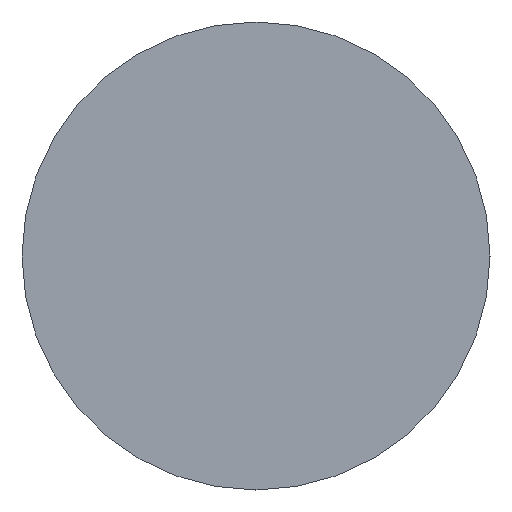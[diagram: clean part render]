
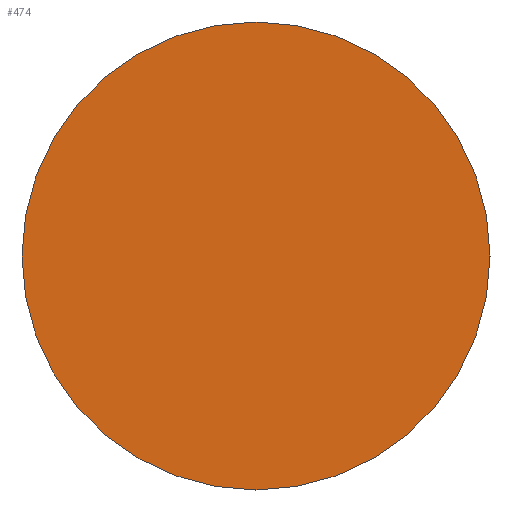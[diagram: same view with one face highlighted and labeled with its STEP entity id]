
A CAD part, left-side view. The second image highlights one B-rep face of the part: STEP entity #474.
In plain terms, the highlighted planar face has unit normal (-1, 0, 0).
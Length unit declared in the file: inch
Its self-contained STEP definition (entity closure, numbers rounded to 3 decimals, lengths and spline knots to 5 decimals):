
#16 = EDGE_CURVE ( 'NONE', #29, #447, #41, .T. ) ;
#21 = EDGE_LOOP ( 'NONE', ( #444, #509 ) ) ;
#29 = VERTEX_POINT ( 'NONE', #135 ) ;
#36 = CARTESIAN_POINT ( 'NONE',  ( -4., 0., 0. ) ) ;
#41 = CIRCLE ( 'NONE', #349, 0.125 ) ;
#108 = AXIS2_PLACEMENT_3D ( 'NONE', #36, #472, #559 ) ;
#135 = CARTESIAN_POINT ( 'NONE',  ( -4., 0., -0.125 ) ) ;
#203 = AXIS2_PLACEMENT_3D ( 'NONE', #586, #337, #493 ) ;
#252 = EDGE_CURVE ( 'NONE', #447, #29, #264, .T. ) ;
#264 = CIRCLE ( 'NONE', #108, 0.125 ) ;
#337 = DIRECTION ( 'NONE',  ( 1., 0., 0. ) ) ;
#349 = AXIS2_PLACEMENT_3D ( 'NONE', #409, #360, #560 ) ;
#360 = DIRECTION ( 'NONE',  ( -1., 0., 0. ) ) ;
#384 = CARTESIAN_POINT ( 'NONE',  ( -4., 0., 0.125 ) ) ;
#388 = FACE_OUTER_BOUND ( 'NONE', #21, .T. ) ;
#409 = CARTESIAN_POINT ( 'NONE',  ( -4., 0., 0. ) ) ;
#444 = ORIENTED_EDGE ( 'NONE', *, *, #252, .T. ) ;
#447 = VERTEX_POINT ( 'NONE', #384 ) ;
#472 = DIRECTION ( 'NONE',  ( -1., 0., 0. ) ) ;
#474 = ADVANCED_FACE ( 'NONE', ( #388 ), #487, .F. ) ;
#487 = PLANE ( 'NONE',  #203 ) ;
#493 = DIRECTION ( 'NONE',  ( 0., 0., -1. ) ) ;
#509 = ORIENTED_EDGE ( 'NONE', *, *, #16, .T. ) ;
#559 = DIRECTION ( 'NONE',  ( 0., 0., 1. ) ) ;
#560 = DIRECTION ( 'NONE',  ( 0., 0., 1. ) ) ;
#586 = CARTESIAN_POINT ( 'NONE',  ( -4., 0.125, 0. ) ) ;
